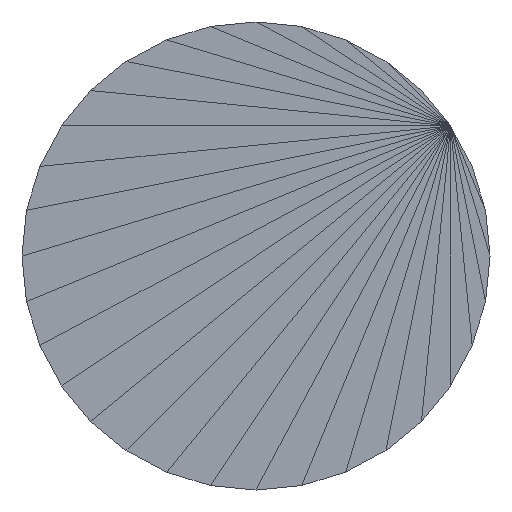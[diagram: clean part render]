
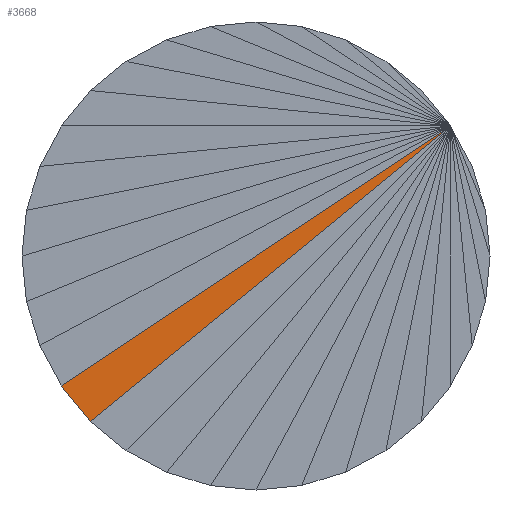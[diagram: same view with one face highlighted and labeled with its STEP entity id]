
A CAD part, front view. The second image highlights one B-rep face of the part: STEP entity #3668.
In plain terms, the highlighted planar face has unit normal (0, -1, 0).
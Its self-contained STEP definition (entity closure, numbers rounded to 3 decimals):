
#951 = VERTEX_POINT('',#952);
#952 = CARTESIAN_POINT('',(-239.191,-115.,347.222));
#2556 = VERTEX_POINT('',#2557);
#2557 = CARTESIAN_POINT('',(-259.192,-115.,330.808));
#2571 = PLANE('',#2572);
#2572 = AXIS2_PLACEMENT_3D('',#2573,#2574,#2575);
#2573 = CARTESIAN_POINT('',(-249.152,-115.,338.207));
#2574 = DIRECTION('',(-0.,-1.,-0.));
#2575 = DIRECTION('',(0.,0.,-1.));
#2711 = PLANE('',#2712);
#2712 = AXIS2_PLACEMENT_3D('',#2713,#2714,#2715);
#2713 = CARTESIAN_POINT('',(-260.403,-0.634,
    332.282));
#2714 = DIRECTION('',(-0.773,-0.,-0.634));
#2715 = DIRECTION('',(0.634,0.,-0.773));
#2727 = VERTEX_POINT('',#2728);
#2728 = CARTESIAN_POINT('',(-260.809,-115.,332.778));
#2769 = PLANE('',#2770);
#2770 = AXIS2_PLACEMENT_3D('',#2771,#2772,#2773);
#2771 = CARTESIAN_POINT('',(-250.82,-115.,340.249));
#2772 = DIRECTION('',(-0.,-1.,-0.));
#2773 = DIRECTION('',(0.,0.,-1.));
#3089 = EDGE_CURVE('',#2556,#2727,#3090,.T.);
#3090 = SURFACE_CURVE('',#3091,(#3095,#3102),.PCURVE_S1.);
#3091 = LINE('',#3092,#3093);
#3092 = CARTESIAN_POINT('',(-259.192,-115.,330.808));
#3093 = VECTOR('',#3094,1.);
#3094 = DIRECTION('',(-0.634,0.,0.773));
#3095 = PCURVE('',#2711,#3096);
#3096 = DEFINITIONAL_REPRESENTATION('',(#3097),#3101);
#3097 = LINE('',#3098,#3099);
#3098 = CARTESIAN_POINT('',(1.908,114.366));
#3099 = VECTOR('',#3100,1.);
#3100 = DIRECTION('',(-1.,0.));
#3101 = ( GEOMETRIC_REPRESENTATION_CONTEXT(2) 
PARAMETRIC_REPRESENTATION_CONTEXT() REPRESENTATION_CONTEXT('2D SPACE',''
  ) );
#3102 = PCURVE('',#3103,#3108);
#3103 = PLANE('',#3104);
#3104 = AXIS2_PLACEMENT_3D('',#3105,#3106,#3107);
#3105 = CARTESIAN_POINT('',(-250.084,-115.,339.147));
#3106 = DIRECTION('',(-0.,-1.,-0.));
#3107 = DIRECTION('',(0.,0.,-1.));
#3108 = DEFINITIONAL_REPRESENTATION('',(#3109),#3112);
#3109 = B_SPLINE_CURVE_WITH_KNOTS('',1,(#3110,#3111),.UNSPECIFIED.,.F.,
  .F.,(2,2),(0.,2.548),.PIECEWISE_BEZIER_KNOTS.);
#3110 = CARTESIAN_POINT('',(8.34,-9.108));
#3111 = CARTESIAN_POINT('',(6.37,-10.725));
#3112 = ( GEOMETRIC_REPRESENTATION_CONTEXT(2) 
PARAMETRIC_REPRESENTATION_CONTEXT() REPRESENTATION_CONTEXT('2D SPACE',''
  ) );
#3603 = EDGE_CURVE('',#951,#2556,#3604,.T.);
#3604 = SURFACE_CURVE('',#3605,(#3609,#3616),.PCURVE_S1.);
#3605 = LINE('',#3606,#3607);
#3606 = CARTESIAN_POINT('',(-239.191,-115.,347.222));
#3607 = VECTOR('',#3608,1.);
#3608 = DIRECTION('',(-0.773,0.,-0.634));
#3609 = PCURVE('',#2571,#3610);
#3610 = DEFINITIONAL_REPRESENTATION('',(#3611),#3615);
#3611 = LINE('',#3612,#3613);
#3612 = CARTESIAN_POINT('',(-9.016,9.961));
#3613 = VECTOR('',#3614,1.);
#3614 = DIRECTION('',(0.634,-0.773));
#3615 = ( GEOMETRIC_REPRESENTATION_CONTEXT(2) 
PARAMETRIC_REPRESENTATION_CONTEXT() REPRESENTATION_CONTEXT('2D SPACE',''
  ) );
#3616 = PCURVE('',#3103,#3617);
#3617 = DEFINITIONAL_REPRESENTATION('',(#3618),#3621);
#3618 = B_SPLINE_CURVE_WITH_KNOTS('',1,(#3619,#3620),.UNSPECIFIED.,.F.,
  .F.,(2,2),(0.,25.875),.PIECEWISE_BEZIER_KNOTS.);
#3619 = CARTESIAN_POINT('',(-8.075,10.893));
#3620 = CARTESIAN_POINT('',(8.34,-9.108));
#3621 = ( GEOMETRIC_REPRESENTATION_CONTEXT(2) 
PARAMETRIC_REPRESENTATION_CONTEXT() REPRESENTATION_CONTEXT('2D SPACE',''
  ) );
#3668 = ADVANCED_FACE('',(#3669),#3103,.T.);
#3669 = FACE_BOUND('',#3670,.T.);
#3670 = EDGE_LOOP('',(#3671,#3691,#3692));
#3671 = ORIENTED_EDGE('',*,*,#3672,.T.);
#3672 = EDGE_CURVE('',#951,#2727,#3673,.T.);
#3673 = SURFACE_CURVE('',#3674,(#3678,#3685),.PCURVE_S1.);
#3674 = LINE('',#3675,#3676);
#3675 = CARTESIAN_POINT('',(-239.191,-115.,347.222));
#3676 = VECTOR('',#3677,1.);
#3677 = DIRECTION('',(-0.831,0.,-0.556));
#3678 = PCURVE('',#3103,#3679);
#3679 = DEFINITIONAL_REPRESENTATION('',(#3680),#3684);
#3680 = LINE('',#3681,#3682);
#3681 = CARTESIAN_POINT('',(-8.075,10.893));
#3682 = VECTOR('',#3683,1.);
#3683 = DIRECTION('',(0.556,-0.831));
#3684 = ( GEOMETRIC_REPRESENTATION_CONTEXT(2) 
PARAMETRIC_REPRESENTATION_CONTEXT() REPRESENTATION_CONTEXT('2D SPACE',''
  ) );
#3685 = PCURVE('',#2769,#3686);
#3686 = DEFINITIONAL_REPRESENTATION('',(#3687),#3690);
#3687 = B_SPLINE_CURVE_WITH_KNOTS('',1,(#3688,#3689),.UNSPECIFIED.,.F.,
  .F.,(2,2),(0.,26.),.PIECEWISE_BEZIER_KNOTS.);
#3688 = CARTESIAN_POINT('',(-6.974,11.629));
#3689 = CARTESIAN_POINT('',(7.471,-9.989));
#3690 = ( GEOMETRIC_REPRESENTATION_CONTEXT(2) 
PARAMETRIC_REPRESENTATION_CONTEXT() REPRESENTATION_CONTEXT('2D SPACE',''
  ) );
#3691 = ORIENTED_EDGE('',*,*,#3089,.F.);
#3692 = ORIENTED_EDGE('',*,*,#3603,.F.);
